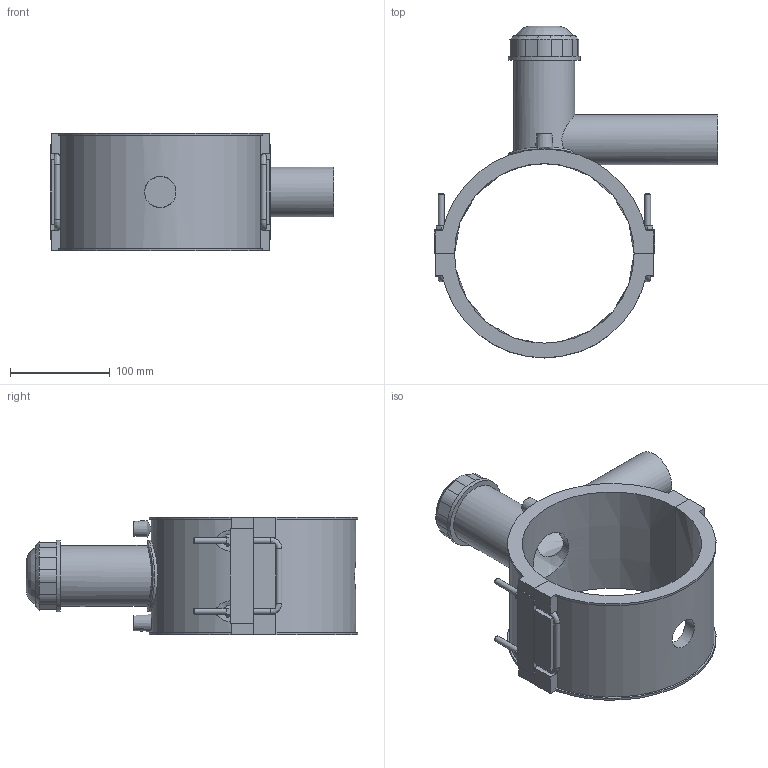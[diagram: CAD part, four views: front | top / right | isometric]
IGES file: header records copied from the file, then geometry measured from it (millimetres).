
Global section: file name: 496304180050.ipt; native system: Autodesk Inventor 2015; preprocessor: unknown; author: KIM; date: 20190124.131118; units: millimetre
Bounding box: 284.5 x 332.65 x 118 mm (x, y, z)
Volume: 1263361.3 mm3; surface area: 269827 mm2
Topology: 2 solids, 2 shells, 181 faces, 466 edges, 303 vertices
Faces by surface type: plane 110, cylinder 32, revolution 20, cone 14, bspline 5
Full cylindrical faces by diameter (mm): 4 x2, 6 x10, 50 x1, 61.2 x1, 72 x1
